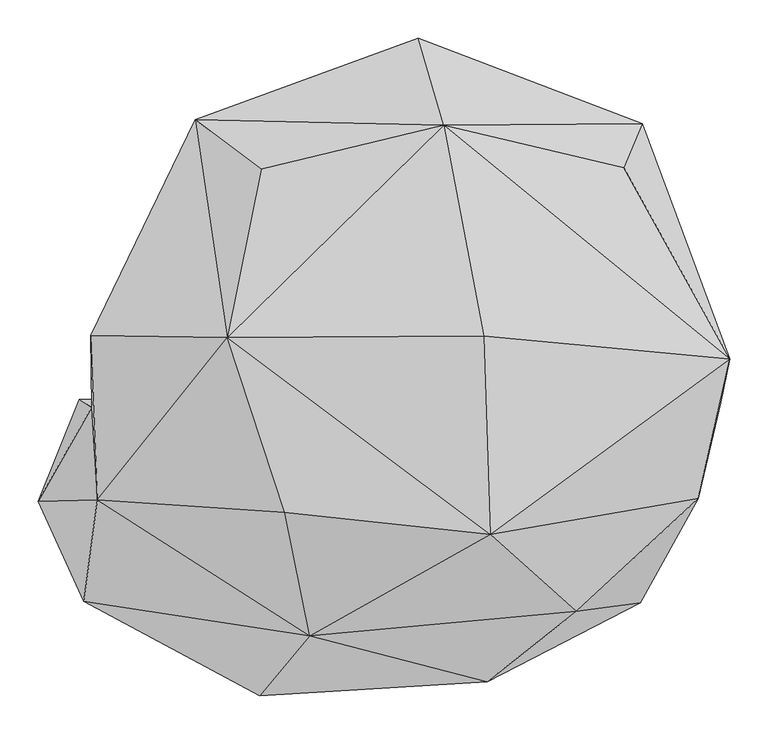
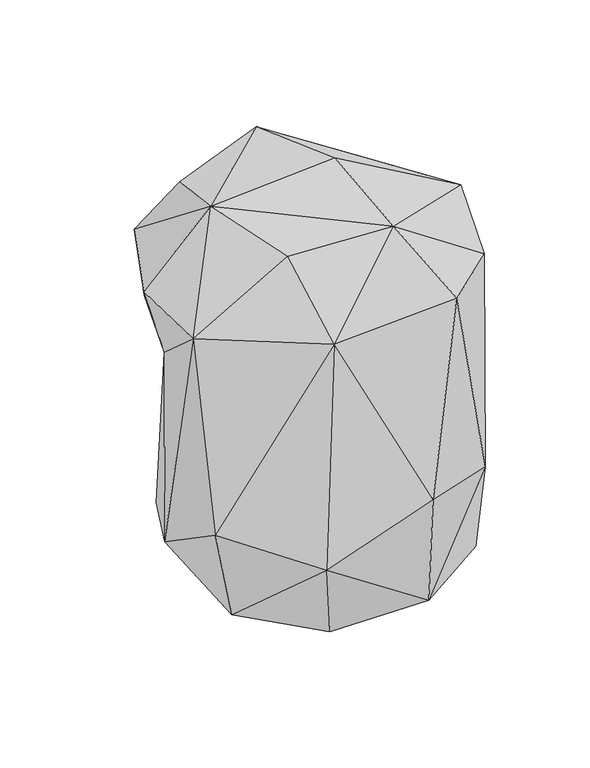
"""IFC4 building model written with IfcOpenShell, lengths in millimetres: geographic element geometry, Enscape AssetDefinition - Creeper Plant 016 Bower Vine : Enscape AssetDefinition - Creeper Plant 016 Bower Vine 2."""

import ifcopenshell
import ifcopenshell.guid

model = None  # the IFC model being written
_history = None  # IfcOwnerHistory: only IFC2X3 demands one
_inside = {}  # id of a spatial element -> (the spatial element, [elements in it])
_under = {}  # id of a project, library or spatial element -> (it, [spatial elements below it])
_declared = {}  # id of a project -> (the project, [libraries it declares])
_typed = {}  # id of a type object -> (the type object, [elements of that type])
_made_of = {}  # id of a material, layer set ... -> (it, [elements and type objects made of it])


def new_model(schema):
    """Start an empty IFC model of exactly this schema.

    Asked for "IFC4X3", IfcOpenShell would pick the latest addendum, in which some entities
    have other attributes; the version numbers below select the first issue.
    IFC2X3 requires an IfcOwnerHistory on every rooted entity: one is made here for all.
    """
    global model, _history
    if schema == "IFC4X3":
        model = ifcopenshell.file(schema_version=(4, 3, 0, 0))
    else:
        model = ifcopenshell.file(schema=schema)
    _inside.clear()
    _under.clear()
    _declared.clear()
    _typed.clear()
    _made_of.clear()
    _history = None
    if model.schema == "IFC2X3":
        org = make("IfcOrganization", Name="unknown")
        user = make(
            "IfcPersonAndOrganization",
            ThePerson=make("IfcPerson", FamilyName="unknown"),
            TheOrganization=org,
        )
        app = make(
            "IfcApplication",
            ApplicationDeveloper=org,
            Version="unknown",
            ApplicationFullName="unknown",
            ApplicationIdentifier="unknown",
        )
        _history = make(
            "IfcOwnerHistory",
            OwningUser=user,
            OwningApplication=app,
            ChangeAction="ADDED",
            CreationDate=0,
        )
    return model


def make(cls, **values):
    """One entity of the class cls with the attributes given. An attribute that is None is left unset."""
    return model.create_entity(
        cls, **{name: value for name, value in values.items() if value is not None}
    )


def rooted(cls, **values):
    """An entity with a GlobalId (a new one), such as an element, a storey or a relation."""
    return make(cls, GlobalId=ifcopenshell.guid.new(), OwnerHistory=_history, **values)


def si_unit(unit_type, name, prefix=None):
    """IfcSIUnit, for example si_unit("LENGTHUNIT", "METRE", prefix="MILLI")."""
    return make("IfcSIUnit", UnitType=unit_type, Prefix=prefix, Name=name)


def assignment(units):
    """IfcUnitAssignment: the units of a project."""
    return None if units is None else make("IfcUnitAssignment", Units=units)


def point(xyz):
    """IfcCartesianPoint."""
    return None if xyz is None else make("IfcCartesianPoint", Coordinates=xyz)


def direction(xyz):
    """IfcDirection."""
    return None if xyz is None else make("IfcDirection", DirectionRatios=xyz)


def frame(location, z_axis=None, x_axis=None):
    """IfcAxis2Placement3D, a coordinate frame: its origin and axes. An axis left out is left unset."""
    return make(
        "IfcAxis2Placement3D",
        Location=point(location),
        Axis=direction(z_axis),
        RefDirection=direction(x_axis),
    )


def origin():
    """The frame at (0, 0, 0) with its axes left unset."""
    return frame((0.0, 0.0, 0.0))


def place(relative_to, where):
    """IfcLocalPlacement: puts the frame where relative to a parent placement (None: the world)."""
    return make(
        "IfcLocalPlacement", PlacementRelTo=relative_to, RelativePlacement=where
    )


def context(
    kind, dimensions, precision=None, world=None, true_north=None, identifier=None
):
    """IfcGeometricRepresentationContext, for example the 3D "Model" context."""
    return make(
        "IfcGeometricRepresentationContext",
        ContextIdentifier=identifier,
        ContextType=kind,
        CoordinateSpaceDimension=dimensions,
        Precision=precision,
        WorldCoordinateSystem=world,
        TrueNorth=true_north,
    )


def project(units=None, contexts=None):
    """IfcProject with its units and contexts."""
    return rooted(
        "IfcProject",
        Name="project",
        RepresentationContexts=contexts,
        UnitsInContext=assignment(units),
    )


def spatial(cls, under=None, at=None, **own):
    """A site, building, storey or space (cls), placed at a placement, below another one or the project."""
    s = rooted(cls, ObjectPlacement=at, **own)
    if under is not None:
        _under.setdefault(under.id(), (under, []))[1].append(s)
    return s


def point_list(points):
    """IfcCartesianPointList2D or 3D."""
    cls = (
        "IfcCartesianPointList2D" if len(points[0]) == 2 else "IfcCartesianPointList3D"
    )
    return make(cls, CoordList=points)


def triangles(points, corners, closed=None, point_numbers=None):
    """IfcTriangulatedFaceSet: each triangle names its three corners, points numbered from 1."""
    return make(
        "IfcTriangulatedFaceSet",
        Coordinates=point_list(points),
        Closed=closed,
        CoordIndex=corners,
        PnIndex=point_numbers,
    )


def shape(context_of_items, identifier, shape_type, items):
    """IfcShapeRepresentation: the items that make up one representation, for example the "Body"."""
    return make(
        "IfcShapeRepresentation",
        ContextOfItems=context_of_items,
        RepresentationIdentifier=identifier,
        RepresentationType=shape_type,
        Items=items,
    )


def source(mapping_origin, context_of_items, identifier, shape_type, items):
    """IfcRepresentationMap: a shape defined once, which mapped items show again and again."""
    return make(
        "IfcRepresentationMap",
        MappingOrigin=mapping_origin,
        MappedRepresentation=shape(context_of_items, identifier, shape_type, items),
    )


def transform(
    local_origin,
    x_axis=None,
    y_axis=None,
    z_axis=None,
    scale=None,
    scale2=None,
    scale3=None,
    uniform=True,
):
    """IfcCartesianTransformationOperator3D, or its non-uniform kind. x_axis, y_axis, z_axis: its Axis1, 2, 3."""
    if uniform:
        return make(
            "IfcCartesianTransformationOperator3D",
            Axis1=direction(x_axis),
            Axis2=direction(y_axis),
            LocalOrigin=point(local_origin),
            Scale=scale,
            Axis3=direction(z_axis),
        )
    return make(
        "IfcCartesianTransformationOperator3DnonUniform",
        Axis1=direction(x_axis),
        Axis2=direction(y_axis),
        LocalOrigin=point(local_origin),
        Scale=scale,
        Axis3=direction(z_axis),
        Scale2=scale2,
        Scale3=scale3,
    )


def mapped(mapping_source, mapping_target):
    """IfcMappedItem: shows the shape of a source again, moved by a transform."""
    return make(
        "IfcMappedItem", MappingSource=mapping_source, MappingTarget=mapping_target
    )


def made_of(thing, what):
    """Note that an element or type object is made of a material, layer set ...; save() writes the relation."""
    if what is not None:
        _made_of.setdefault(what.id(), (what, []))[1].append(thing)
    return thing


def element(
    cls,
    number,
    at=None,
    inside=None,
    cuts=None,
    type_object=None,
    material=None,
    context=None,
    identifier="Body",
    shape_type=None,
    held_by="IfcProductDefinitionShape",
    body=None,
    shapes=None,
    **own,
):
    """One element of the class cls, such as IfcWall. Its Tag is "e" and its number.

    at: its placement. inside: the storey or other place that contains it. cuts: it is an
    opening in that element (IfcRelVoidsElement). A single representation is given by context,
    identifier, shape_type and body (its items); several are given by shapes. held_by: the class
    of the entity that holds the representations. save() writes the other relations.
    """
    e = rooted(cls, Tag="e%d" % number, ObjectPlacement=at, **own)
    if body is not None:
        shapes = [shape(context, identifier, shape_type, body)]
    if shapes is not None:
        e.Representation = make(held_by, Representations=shapes)
    if inside is not None:
        _inside.setdefault(inside.id(), (inside, []))[1].append(e)
    if cuts is not None:
        rooted(
            "IfcRelVoidsElement", RelatingBuildingElement=cuts, RelatedOpeningElement=e
        )
    if type_object is not None:
        _typed.setdefault(type_object.id(), (type_object, []))[1].append(e)
    return made_of(e, material)


def aggregate(whole, parts):
    """IfcRelAggregates: a whole, such as a stair, and the parts it consists of."""
    return rooted("IfcRelAggregates", RelatingObject=whole, RelatedObjects=parts)


def save(model, path):
    """Write the relations noted so far, then the file.

    IfcRelAggregates (storeys below a building ...), IfcRelContainedInSpatialStructure (elements
    in a storey), IfcRelDefinesByType, IfcRelAssociatesMaterial and IfcRelDeclares: one each for
    every whole, place, type object, material and project.
    """
    for whole, parts in _under.values():
        aggregate(whole, parts)
    for where, things in _inside.values():
        rooted(
            "IfcRelContainedInSpatialStructure",
            RelatedElements=things,
            RelatingStructure=where,
        )
    for kind, things in _typed.values():
        rooted("IfcRelDefinesByType", RelatedObjects=things, RelatingType=kind)
    for what, things in _made_of.values():
        rooted("IfcRelAssociatesMaterial", RelatedObjects=things, RelatingMaterial=what)
    for by, libraries in _declared.values():
        rooted("IfcRelDeclares", RelatingContext=by, RelatedDefinitions=libraries)
    model.write(path)


def geographic_element_b0e9a4e7(model_context):
    return source(origin(), model_context, "Body", "Tessellation", [
        triangles([(-418.4165751, -10.7083739, 31.0264901), (407.4185183, -4.1780219, -3.1305902), (327.1320671, 0.0, -236.9037809), (377.6866848, -130.131619, 105.3516726), (348.6365685, -116.5676759, -227.9596503), (-434.2962381, -0.0029258, -400.4448887), (327.4831358, 0.0, -537.7403601), (301.5738524, -266.9267303, -394.0140312), (273.3166201, -270.9145683, -608.0220803), (100.6045878, -370.7306777, -355.0952585), (370.7833271, -126.5270607, -596.2940898), (230.262235, -125.6975874, -752.8249786), (191.6155206, 0.0, -713.6765688), (-124.7101386, -276.1531657, -710.9731728), (-90.3014376, 0.0, -742.7705778), (-63.3008282, -119.540287, -804.1666849), (-323.3592596, 0.0, -613.9482811), (-348.5019836, -203.9448007, -626.9665272), (-488.4818115, -134.1077662, -412.1685554), (-197.793323, -389.0256002, -440.6788791), (-428.3452569, -264.9547214, -334.4114193), (130.0540802, -299.6223727, -695.4416353), (-410.7787783, -131.8885521, 140.0471021), (-240.2011087, 81.3456071, 328.8187737), (104.4520001, -177.710737, 309.1472637), (-132.1504003, -310.5867471, 135.2502837), (217.6842782, -278.6473994, 124.9676083), (-164.7685219, -148.7644752, 300.2294759), (279.567583, 304.3986982, 160.0024248), (419.1377521, 52.6641365, 177.3274574), (44.0082013, 359.9783907, 287.7612326), (96.1895775, 82.7602282, 350.0000027), (-195.7540398, 302.0785818, 250.6520333), (10.5489201, 474.168877, 44.6738175), (303.9218014, 361.8728245, 0.0), (-281.9871846, 367.3732882, 105.4350615), (5.5648436, 455.4057781, 0.0), (-145.0472693, 388.9992574, 0.0), (-326.1606874, 244.4347348, 6.6312926), (-419.7024342, 83.8061945, 146.9402588)], [[40, 39, 1], [40, 36, 39], [36, 40, 24], [33, 36, 24], [38, 39, 36], [36, 37, 38], [36, 34, 37], [34, 35, 37], [38, 37, 35], [35, 39, 38], [35, 1, 39], [35, 34, 31], [31, 33, 24], [33, 31, 36], [29, 35, 31], [34, 36, 31], [31, 24, 32], [30, 31, 32], [29, 30, 35], [30, 29, 31], [24, 25, 32], [25, 30, 32], [24, 28, 25], [10, 27, 26], [25, 28, 26], [26, 27, 25], [40, 1, 23], [26, 28, 23], [28, 24, 23], [40, 23, 24], [1, 19, 23], [23, 19, 21], [26, 23, 21], [10, 20, 22], [21, 20, 26], [10, 26, 20], [22, 20, 14], [20, 21, 18], [20, 18, 14], [18, 21, 19], [19, 17, 18], [1, 6, 19], [6, 17, 19], [15, 17, 6], [17, 16, 18], [17, 15, 16], [16, 22, 14], [16, 14, 18], [22, 12, 9], [16, 12, 22], [15, 13, 16], [12, 16, 13], [6, 13, 15], [6, 7, 13], [13, 7, 11], [11, 12, 13], [11, 9, 12], [8, 10, 22], [11, 8, 9], [8, 27, 10], [8, 22, 9], [27, 8, 4], [4, 30, 25], [4, 25, 27], [7, 5, 11], [5, 4, 8], [5, 8, 11], [7, 3, 5], [6, 3, 7], [3, 2, 5], [2, 35, 30], [2, 4, 5], [4, 2, 30], [6, 2, 3], [6, 1, 2], [35, 2, 1]]),
    ])


if __name__ == "__main__":
    model = new_model("IFC4")
    model_context = context("Model", 3, world=origin())
    ifc_project = project(units=[si_unit("LENGTHUNIT", "METRE", prefix="MILLI")], contexts=[model_context])
    site = spatial("IfcSite", under=ifc_project)
    building = spatial("IfcBuilding", under=site)
    placement = place(None, origin())
    geographic_element_shape = geographic_element_b0e9a4e7(model_context)
    element("IfcGeographicElement", 1, ObjectType="Enscape AssetDefinition - Creeper Plant 016 Bower Vine : Enscape AssetDefinition - Creeper Plant 016 Bower Vine 2", at=placement, inside=building, context=model_context, shape_type="MappedRepresentation", body=[
        mapped(geographic_element_shape, transform((0.0, 0.0, 0.0), x_axis=(1.0, 0.0, 0.0), y_axis=(0.0, 1.0, 0.0), z_axis=(0.0, 0.0, 1.0))),
    ])
    save(model, "model.ifc")
